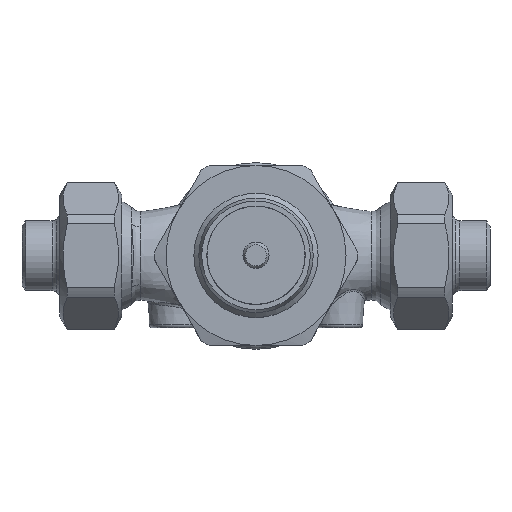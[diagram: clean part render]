
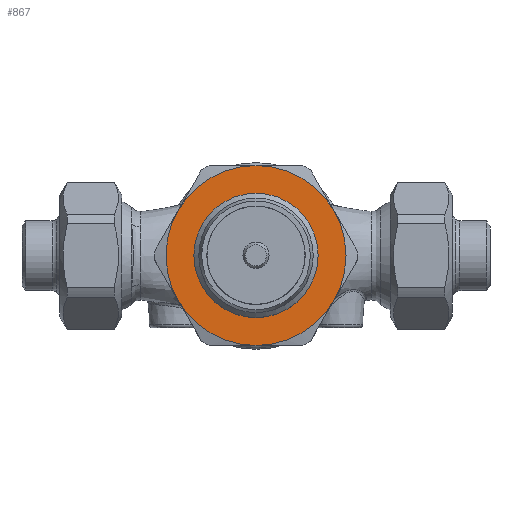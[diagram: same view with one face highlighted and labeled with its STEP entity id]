
A CAD part, top view. The second image highlights one B-rep face of the part: STEP entity #867.
In plain terms, the highlighted planar face has unit normal (0, 0, 1).
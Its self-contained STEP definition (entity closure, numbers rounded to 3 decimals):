
#278=PLANE('',#2933);
#457=CIRCLE('',#2897,27.5);
#459=CIRCLE('',#2900,27.5);
#460=CIRCLE('',#2902,27.5);
#463=CIRCLE('',#2906,27.5);
#465=CIRCLE('',#2909,27.5);
#472=CIRCLE('',#2927,27.5);
#474=CIRCLE('',#2932,19.);
#633=FACE_BOUND('',#1211,.T.);
#634=FACE_BOUND('',#1212,.T.);
#867=ADVANCED_FACE('',(#633,#634),#278,.T.);
#1211=EDGE_LOOP('',(#1701));
#1212=EDGE_LOOP('',(#1702,#1703,#1704,#1705,#1706,#1707));
#1701=ORIENTED_EDGE('',*,*,#2519,.F.);
#1702=ORIENTED_EDGE('',*,*,#2468,.T.);
#1703=ORIENTED_EDGE('',*,*,#2472,.T.);
#1704=ORIENTED_EDGE('',*,*,#2480,.T.);
#1705=ORIENTED_EDGE('',*,*,#2484,.T.);
#1706=ORIENTED_EDGE('',*,*,#2512,.T.);
#1707=ORIENTED_EDGE('',*,*,#2474,.T.);
#2180=VERTEX_POINT('',#10127);
#2182=VERTEX_POINT('',#10134);
#2185=VERTEX_POINT('',#10148);
#2187=VERTEX_POINT('',#10157);
#2191=VERTEX_POINT('',#10176);
#2194=VERTEX_POINT('',#10190);
#2209=VERTEX_POINT('',#10297);
#2468=EDGE_CURVE('',#2180,#2182,#457,.T.);
#2472=EDGE_CURVE('',#2182,#2185,#459,.T.);
#2474=EDGE_CURVE('',#2187,#2180,#460,.T.);
#2480=EDGE_CURVE('',#2185,#2191,#463,.T.);
#2484=EDGE_CURVE('',#2191,#2194,#465,.T.);
#2512=EDGE_CURVE('',#2194,#2187,#472,.T.);
#2519=EDGE_CURVE('',#2209,#2209,#474,.T.);
#2897=AXIS2_PLACEMENT_3D('',#10135,#3350,#3351);
#2900=AXIS2_PLACEMENT_3D('',#10149,#3356,#3357);
#2902=AXIS2_PLACEMENT_3D('',#10156,#3360,#3361);
#2906=AXIS2_PLACEMENT_3D('',#10177,#3368,#3369);
#2909=AXIS2_PLACEMENT_3D('',#10191,#3374,#3375);
#2927=AXIS2_PLACEMENT_3D('',#10275,#3420,#3421);
#2932=AXIS2_PLACEMENT_3D('',#10296,#3432,#3433);
#2933=AXIS2_PLACEMENT_3D('',#10298,#3434,#3435);
#3350=DIRECTION('',(0.,0.,1.));
#3351=DIRECTION('',(-1.,0.,0.));
#3356=DIRECTION('',(0.,0.,1.));
#3357=DIRECTION('',(-1.,0.,0.));
#3360=DIRECTION('',(0.,0.,1.));
#3361=DIRECTION('',(-1.,0.,0.));
#3368=DIRECTION('',(0.,0.,1.));
#3369=DIRECTION('',(-1.,0.,0.));
#3374=DIRECTION('',(0.,0.,1.));
#3375=DIRECTION('',(-1.,0.,0.));
#3420=DIRECTION('',(0.,0.,1.));
#3421=DIRECTION('',(-1.,0.,0.));
#3432=DIRECTION('',(0.,0.,1.));
#3433=DIRECTION('',(1.,0.,0.));
#3434=DIRECTION('',(0.,0.,1.));
#3435=DIRECTION('',(-1.,0.,0.));
#10127=CARTESIAN_POINT('',(-23.816,-13.75,48.));
#10134=CARTESIAN_POINT('',(0.,-27.5,48.));
#10135=CARTESIAN_POINT('',(0.,0.,48.));
#10148=CARTESIAN_POINT('',(23.816,-13.75,48.));
#10149=CARTESIAN_POINT('',(0.,0.,48.));
#10156=CARTESIAN_POINT('',(0.,0.,48.));
#10157=CARTESIAN_POINT('',(-23.816,13.75,48.));
#10176=CARTESIAN_POINT('',(23.816,13.75,48.));
#10177=CARTESIAN_POINT('',(0.,0.,48.));
#10190=CARTESIAN_POINT('',(0.,27.5,48.));
#10191=CARTESIAN_POINT('',(0.,0.,48.));
#10275=CARTESIAN_POINT('',(0.,0.,48.));
#10296=CARTESIAN_POINT('',(0.,0.,48.));
#10297=CARTESIAN_POINT('',(19.,0.,48.));
#10298=CARTESIAN_POINT('',(-19.5,0.,48.));
